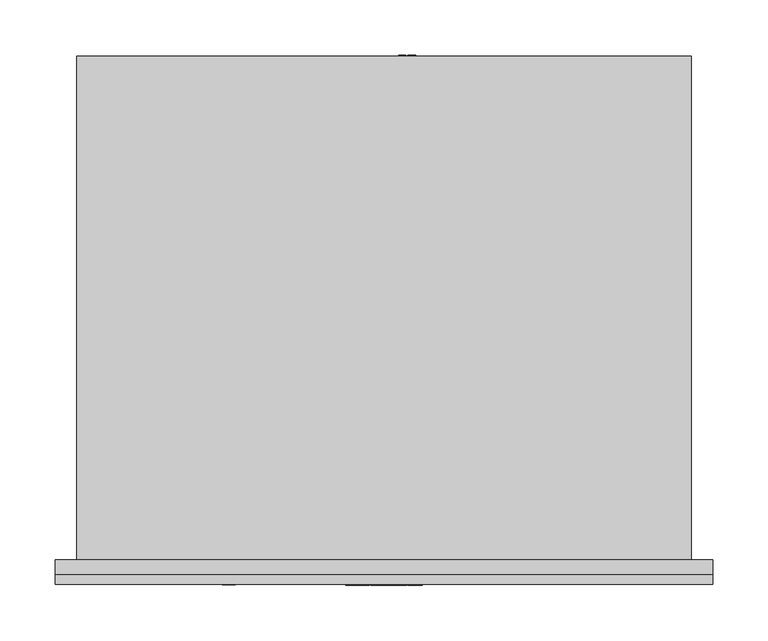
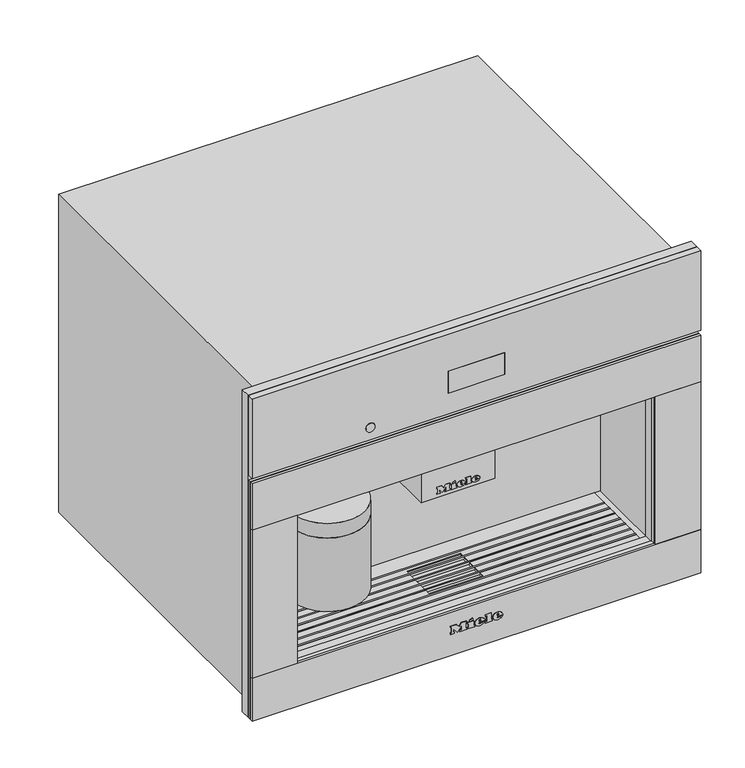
"""IFC4 building model written with IfcOpenShell, lengths in millimetres: proxy geometry, 11754280_USA_CVA7440_GRGR : 29744030_USA_11754280_CVA7440_GRGR."""

from ifc_helpers import new_model, si_unit, point, frame, frame_2d, origin, place, context, project, spatial, polyline, circle_curve, ellipse_curve, trimmed, segment, composite_curve, outline, extrude, faceted_brep, source, transform, mapped, element, save
from ifc_brep_helpers import plane_surface, cylinder_surface, revolved_surface, extruded_surface, advanced_brep


def specialty_equipment_fc41abb0(model_context):
    return source(origin(), model_context, "Body", "SolidModel", [
        extrude(outline(composite_curve([segment(trimmed(circle_curve(frame_2d((-14.0, 36.5)), 5.0), [point((-9.0, 36.5))], [point((-19.0, 36.5))], False, "CARTESIAN"), True, "CONTINUOUS"), segment(trimmed(circle_curve(frame_2d((-14.0, 36.5)), 5.0), [point((-19.0, 36.5))], [point((-9.0, 36.5))], False, "CARTESIAN"), True, "CONTINUOUS")], self_intersect=False)), frame((0.0, 0.0, 193.0), z_axis=(0.0, 0.0, 1.0), x_axis=(1.0, 0.0, 0.0)), (0.0, 0.0, 1.0), 5.0),
        extrude(outline(composite_curve([segment(trimmed(circle_curve(frame_2d((14.0, 36.5)), 5.0), [point((19.0, 36.5))], [point((9.0, 36.5))], False, "CARTESIAN"), True, "CONTINUOUS"), segment(trimmed(circle_curve(frame_2d((14.0, 36.5)), 5.0), [point((9.0, 36.5))], [point((19.0, 36.5))], False, "CARTESIAN"), True, "CONTINUOUS")], self_intersect=False)), frame((0.0, 0.0, 193.0), z_axis=(0.0, 0.0, 1.0), x_axis=(1.0, 0.0, 0.0)), (0.0, 0.0, 1.0), 5.0),
        extrude(outline(composite_curve([segment(trimmed(circle_curve(frame_2d((-156.5, 49.5)), 50.0), [point((-106.5, 49.5))], [point((-206.5, 49.5))], False, "CARTESIAN"), True, "CONTINUOUS"), segment(trimmed(circle_curve(frame_2d((-156.5, 49.5)), 50.0), [point((-206.5, 49.5))], [point((-106.5, 49.5))], False, "CARTESIAN"), True, "CONTINUOUS")], self_intersect=False)), frame((0.0, 0.0, 100.0), z_axis=(0.0, 0.0, 1.0), x_axis=(1.0, 0.0, 0.0)), (0.0, 0.0, 1.0), 103.0),
        extrude(outline(polyline([(-49.0, 95.0), (49.0, 95.0), (49.0, 20.0), (-49.0, 20.0), (-49.0, 95.0)])), frame((0.0, 0.0, 198.0), z_axis=(0.0, 0.0, 1.0), x_axis=(1.0, 0.0, 0.0)), (0.0, 0.0, 1.0), 75.0),
        extrude(outline(polyline([(455.5, 297.5), (455.5, -297.5), (4.0, -297.5), (4.0, 297.5), (455.5, 297.5)]), holes=[polyline([(273.0, 237.5), (63.0, 237.5), (63.0, -237.5), (273.0, -237.5), (273.0, 237.5)])]), frame((0.0, -13.0, 0.0), z_axis=(0.0, 1.0, 0.0), x_axis=(0.0, 0.0, 1.0)), (0.0, 0.0, 1.0), 13.0),
        extrude(outline(polyline([(97.0, 28.8772152), (107.045631, 28.8772152), (107.045631, 21.6569179), (105.7899271, 21.6569179), (105.7899271, 27.6215114), (102.8076304, 27.6215114), (102.8076304, 21.9708439), (101.5519266, 21.9708439), (101.5519266, 27.6215114), (98.2557039, 27.6215114), (98.2557039, 21.499955), (97.0, 21.499955), (97.0, 28.8772152)])), frame((0.0, 456.0, 0.0), z_axis=(0.0, 1.0, 0.0), x_axis=(0.0, 0.0, 1.0)), (0.0, 0.0, 1.0), 1.0),
        extrude(outline(polyline([(97.0, 19.6163991), (107.045631, 19.6163991), (107.045631, 18.3606953), (98.2557039, 18.3606953), (98.2557039, 13.3378798), (97.0, 13.3378798), (97.0, 19.6163991)])), frame((0.0, 456.0, 0.0), z_axis=(0.0, 1.0, 0.0), x_axis=(0.0, 0.0, 1.0)), (0.0, 0.0, 1.0), 1.0),
        advanced_brep(
        [(55.0, 425.5, 102.0), (55.0, 410.5, 102.0), (28.5, 425.5, 102.0), (13.5, 410.5, 102.0), (28.5, 456.0, 102.0), (13.5, 456.0, 102.0)],
        [
            (0, 1, circle_curve(frame((55.0, 418.0, 102.0), z_axis=(1.0, 0.0, 0.0), x_axis=(0.0, -1.0, 0.0)), 7.5)),
            (1, 0, circle_curve(frame((55.0, 418.0, 102.0), z_axis=(1.0, 0.0, 0.0), x_axis=(0.0, -1.0, 0.0)), 7.5)),
            (0, 2),
            (2, 3, ellipse_curve(frame((21.0, 418.0, 102.0), z_axis=(0.7071067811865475, -0.7071067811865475, 0.0), x_axis=(0.7071067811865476, 0.7071067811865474, 0.0)), 10.6066017, 7.5)),
            (3, 1),
            (3, 2, ellipse_curve(frame((21.0, 418.0, 102.0), z_axis=(0.7071067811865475, -0.7071067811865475, 0.0), x_axis=(0.7071067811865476, 0.7071067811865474, 0.0)), 10.6066017, 7.5)),
            (4, 5, circle_curve(frame((21.0, 456.0, 102.0), z_axis=(0.0, 1.0, 0.0), x_axis=(-1.0, 0.0, 0.0)), 7.5)),
            (5, 4, circle_curve(frame((21.0, 456.0, 102.0), z_axis=(0.0, 1.0, 0.0), x_axis=(-1.0, 0.0, 0.0)), 7.5)),
            (2, 4),
            (5, 3),
        ],
        [
            plane_surface(frame((55.0, 418.0, 102.0), z_axis=(1.0, 0.0, 0.0), x_axis=(0.0, 0.0, 1.0))),
            cylinder_surface(frame((55.0, 418.0, 102.0), z_axis=(1.0, 0.0, 0.0), x_axis=(0.0, -1.0, 0.0)), 7.5),
            plane_surface(frame((21.0, 456.0, 102.0), z_axis=(0.0, 1.0, 0.0), x_axis=(0.0, 0.0, 1.0))),
            cylinder_surface(frame((21.0, 418.0, 102.0), z_axis=(0.0, -1.0, 0.0), x_axis=(-1.0, 0.0, 0.0)), 7.5),
        ],
        [
            (0, [[1, 2]]),
            (1, [[-1, 3, 4, 5]]),
            (1, [[-2, -5, 6, -3]]),
            (2, [[7, 8]]),
            (3, [[-4, 9, -8, 10]]),
            (3, [[-6, -10, -7, -9]]),
        ],
    ),
        advanced_brep(
        [(-110.0, 49.5, 252.0), (-203.0, 49.5, 252.0), (-206.5, 49.5, 223.5), (-106.5, 49.5, 223.5), (-110.0, 49.5, 273.0), (-203.0, 49.5, 273.0), (-156.5, 49.5, 273.0), (-106.5, 49.5, 203.0), (-206.5, 49.5, 203.0), (-156.5, 49.5, 203.0)],
        [
            (0, 1, circle_curve(frame((-156.5, 49.5, 252.0), z_axis=(0.0, 0.0, -1.0), x_axis=(-1.0, 0.0, 0.0)), 46.5)),
            (1, 2, circle_curve(frame((-206.7961166, 49.5, 238.0012775), z_axis=(0.0, 1.0, 0.0), x_axis=(-1.0, 0.0, 0.0)), 14.5043005)),
            (2, 3, circle_curve(frame((-156.5, 49.5, 223.5), z_axis=(0.0, 0.0, 1.0), x_axis=(-1.0, 0.0, 0.0)), 50.0)),
            (3, 0, circle_curve(frame((-106.2038834, 49.5, 238.0012775), z_axis=(0.0, 1.0, 0.0), x_axis=(1.0, 0.0, 0.0)), 14.5043005)),
            (4, 5, circle_curve(frame((-156.5, 49.5, 273.0), z_axis=(0.0, 0.0, -1.0), x_axis=(-1.0, 0.0, 0.0)), 46.5)),
            (5, 1),
            (0, 4),
            (6, 4),
            (4, 5, circle_curve(frame((-156.5, 49.5, 273.0), z_axis=(0.0, 0.0, 1.0), x_axis=(-1.0, 0.0, 0.0)), 46.5)),
            (5, 6),
            (7, 8, circle_curve(frame((-156.5, 49.5, 203.0), z_axis=(0.0, 0.0, -1.0), x_axis=(-1.0, 0.0, 0.0)), 50.0)),
            (8, 9),
            (9, 7),
            (8, 7, circle_curve(frame((-156.5, 49.5, 203.0), z_axis=(0.0, 0.0, -1.0), x_axis=(-1.0, 0.0, 0.0)), 50.0)),
            (2, 8),
            (7, 3),
            (2, 3, circle_curve(frame((-156.5, 49.5, 223.5), z_axis=(0.0, 0.0, -1.0), x_axis=(-1.0, 0.0, 0.0)), 50.0)),
            (1, 0, circle_curve(frame((-156.5, 49.5, 252.0), z_axis=(0.0, 0.0, -1.0), x_axis=(-1.0, 0.0, 0.0)), 46.5)),
        ],
        [
            revolved_surface(trimmed(ellipse_curve(frame((-206.7961166, 49.5, 238.0012775), z_axis=(0.0, -1.0, 0.0), x_axis=(-1.0, 0.0, 0.0)), 14.5043005, 14.5043005), [point((-206.5, 49.5, 223.5))], [point((-203.0, 49.5, 252.0))], True, "CARTESIAN"), (-156.5, 49.5, 388.7361736), (0.0, 0.0, 1.0)),
            cylinder_surface(frame((-156.5, 49.5, 388.7361736), z_axis=(0.0, 0.0, 1.0), x_axis=(-1.0, 0.0, 0.0)), 46.5),
            plane_surface(frame((-156.5, 49.5, 273.0), z_axis=(0.0, 0.0, 1.0), x_axis=(-1.0, 0.0, 0.0))),
            plane_surface(frame((-156.5, 49.5, 203.0), z_axis=(0.0, 0.0, -1.0), x_axis=(-1.0, 0.0, 0.0))),
            cylinder_surface(frame((-156.5, 49.5, 388.7361736), z_axis=(0.0, 0.0, 1.0), x_axis=(-1.0, 0.0, 0.0)), 50.0),
        ],
        [
            (0, [[1, 2, 3, 4]]),
            (1, [[5, 6, -1, 7]]),
            (2, [[8, 9, 10]]),
            (3, [[11, 12, 13]]),
            (3, [[14, -13, -12]]),
            (4, [[-3, 15, -11, 16]]),
            (4, [[17, -16, -14, -15]]),
            (0, [[18, -4, -17, -2]]),
            (1, [[-9, -7, -18, -6]]),
            (2, [[-10, -5, -8]]),
        ],
    ),
        faceted_brep([(229.5, 82.0925571, 60.0), (229.5, 80.0925571, 60.0), (-229.5, 80.0925571, 60.0), (-229.5, 82.0925571, 60.0), (229.5, 70.0550731, 60.0), (229.5, 68.0550731, 60.0), (-229.5, 68.0550731, 60.0), (-229.5, 70.0550731, 60.0), (229.5, 58.0175891, 60.0), (229.5, 56.0175891, 60.0), (-229.5, 56.0175891, 60.0), (-229.5, 58.0175891, 60.0), (229.5, 45.9801052, 60.0), (229.5, 43.9801052, 60.0), (-229.5, 43.9801052, 60.0), (-229.5, 45.9801052, 60.0), (229.5, 33.9426212, 60.0), (229.5, 31.9426212, 60.0), (-229.5, 31.9426212, 60.0), (-229.5, 33.9426212, 60.0), (229.5, 21.9776522, 60.0), (229.5, 19.9776522, 60.0), (-229.5, 19.9776522, 60.0), (-229.5, 21.9776522, 60.0), (229.5, 10.0, 60.0), (229.5, 8.0, 60.0), (-229.5, 8.0, 60.0), (-229.5, 10.0, 60.0), (-229.5, 45.9801052, 62.0), (-36.0, 45.9801052, 62.0), (-36.0, 45.9801052, 63.0), (-229.5, 45.9801052, 63.0), (-229.5, 45.9801052, 63.5), (229.5, 45.9801052, 63.5), (229.5, 45.9801052, 63.0), (36.0, 45.9801052, 63.0), (36.0, 45.9801052, 62.0), (229.5, 45.9801052, 62.0), (229.5, 19.9776522, 62.0), (229.5, 10.0, 62.0), (-229.5, 10.0, 62.0), (-229.5, 19.9776522, 62.0), (229.5, 43.9801052, 62.0), (229.5, 33.9426212, 62.0), (36.0, 33.9426212, 62.0), (36.0, 43.9801052, 62.0), (229.5, 56.0175891, 62.0), (36.0, 56.0175891, 62.0), (229.5, 68.0550731, 62.0), (229.5, 58.0175891, 62.0), (36.0, 58.0175891, 62.0), (36.0, 68.0550731, 62.0), (-229.5, 33.9426212, 62.0), (-229.5, 43.9801052, 62.0), (-36.0, 43.9801052, 62.0), (-36.0, 33.9426212, 62.0), (-229.5, 56.0175891, 62.0), (-36.0, 56.0175891, 62.0), (-229.5, 58.0175891, 62.0), (-229.5, 68.0550731, 62.0), (-36.0, 68.0550731, 62.0), (-36.0, 58.0175891, 62.0), (-229.5, 104.5, 62.0), (229.5, 104.5, 62.0), (229.5, 82.0925571, 62.0), (-229.5, 82.0925571, 62.0), (36.0, 76.0, 62.0), (-36.0, 76.0, 62.0), (-36.0, 70.0550731, 62.0), (-229.5, 70.0550731, 62.0), (-229.5, 80.0925571, 62.0), (229.5, 80.0925571, 62.0), (229.5, 70.0550731, 62.0), (36.0, 70.0550731, 62.0), (229.5, 0.0, 62.0), (-229.5, 0.0, 62.0), (-229.5, 8.0, 62.0), (229.5, 8.0, 62.0), (-36.0, 25.0, 62.0), (36.0, 25.0, 62.0), (36.0, 31.9426212, 62.0), (229.5, 31.9426212, 62.0), (229.5, 21.9776522, 62.0), (-229.5, 21.9776522, 62.0), (-229.5, 31.9426212, 62.0), (-36.0, 31.9426212, 62.0), (229.5, 104.5, 63.0), (-229.5, 104.5, 63.0), (-229.5, 82.0925571, 63.0), (229.5, 82.0925571, 63.0), (-229.5, 0.0, 63.0), (229.5, 0.0, 63.0), (229.5, 8.0, 63.0), (-229.5, 8.0, 63.0), (-36.0, 76.0, 63.0), (36.0, 76.0, 63.0), (36.0, 70.0550731, 63.0), (229.5, 70.0550731, 63.0), (229.5, 80.0925571, 63.0), (-229.5, 80.0925571, 63.0), (-229.5, 70.0550731, 63.0), (-36.0, 70.0550731, 63.0), (36.0, 25.0, 63.0), (-36.0, 25.0, 63.0), (-36.0, 31.9426212, 63.0), (-229.5, 31.9426212, 63.0), (-229.5, 21.9776522, 63.0), (229.5, 21.9776522, 63.0), (229.5, 31.9426212, 63.0), (36.0, 31.9426212, 63.0), (-229.5, 19.9776522, 63.0), (-229.5, 10.0, 63.0), (229.5, 10.0, 63.0), (229.5, 19.9776522, 63.0), (-229.5, 43.9801052, 63.0), (-229.5, 33.9426212, 63.0), (-36.0, 33.9426212, 63.0), (-36.0, 43.9801052, 63.0), (-229.5, 56.0175891, 63.0), (-36.0, 56.0175891, 63.0), (-229.5, 68.0550731, 63.0), (-229.5, 58.0175891, 63.0), (-36.0, 58.0175891, 63.0), (-36.0, 68.0550731, 63.0), (229.5, 33.9426212, 63.0), (229.5, 43.9801052, 63.0), (36.0, 43.9801052, 63.0), (36.0, 33.9426212, 63.0), (229.5, 56.0175891, 63.0), (36.0, 56.0175891, 63.0), (229.5, 58.0175891, 63.0), (229.5, 68.0550731, 63.0), (36.0, 68.0550731, 63.0), (36.0, 58.0175891, 63.0), (-229.5, 8.0, 63.5), (-229.5, 10.0, 63.5), (-229.5, 19.9776522, 63.5), (-229.5, 21.9776522, 63.5), (-229.5, 31.9426212, 63.5), (-229.5, 33.9426212, 63.5), (-229.5, 43.9801052, 63.5), (-229.5, 56.0175891, 63.5), (-229.5, 58.0175891, 63.5), (-229.5, 68.0550731, 63.5), (-229.5, 70.0550731, 63.5), (-229.5, 80.0925571, 63.5), (-229.5, 82.0925571, 63.5), (229.5, 82.0925571, 63.5), (229.5, 80.0925571, 63.5), (229.5, 70.0550731, 63.5), (229.5, 68.0550731, 63.5), (229.5, 58.0175891, 63.5), (229.5, 56.0175891, 63.5), (229.5, 43.9801052, 63.5), (229.5, 33.9426212, 63.5), (229.5, 31.9426212, 63.5), (229.5, 21.9776522, 63.5), (229.5, 19.9776522, 63.5), (229.5, 10.0, 63.5), (229.5, 8.0, 63.5)], [[[0, 1, 2, 3]], [[4, 5, 6, 7]], [[8, 9, 10, 11]], [[12, 13, 14, 15]], [[16, 17, 18, 19]], [[20, 21, 22, 23]], [[24, 25, 26, 27]], [[12, 15, 28, 29, 30, 31, 32, 33, 34, 35, 36, 37]], [[38, 39, 40, 41]], [[42, 43, 44, 45]], [[46, 37, 36, 47]], [[48, 49, 50, 51]], [[52, 53, 54, 55]], [[28, 56, 57, 29]], [[58, 59, 60, 61]], [[62, 63, 64, 65]], [[66, 67, 68, 69, 70, 71, 72, 73]], [[74, 75, 76, 77]], [[78, 79, 80, 81, 82, 83, 84, 85]], [[86, 87, 88, 89]], [[90, 91, 92, 93]], [[94, 95, 96, 97, 98, 99, 100, 101]], [[102, 103, 104, 105, 106, 107, 108, 109]], [[110, 111, 112, 113]], [[114, 115, 116, 117]], [[118, 31, 30, 119]], [[120, 121, 122, 123]], [[124, 125, 126, 127]], [[34, 128, 129, 35]], [[130, 131, 132, 133]], [[63, 62, 87, 86]], [[87, 62, 65, 3, 2, 70, 69, 7, 6, 59, 58, 11, 10, 56, 28, 15, 14, 53, 52, 19, 18, 84, 83, 23, 22, 41, 40, 27, 26, 76, 75, 90, 93, 134, 135, 111, 110, 136, 137, 106, 105, 138, 139, 115, 114, 140, 32, 31, 118, 141, 142, 121, 120, 143, 144, 100, 99, 145, 146, 88]], [[75, 74, 91, 90]], [[63, 86, 89, 147, 148, 98, 97, 149, 150, 131, 130, 151, 152, 128, 34, 33, 153, 125, 124, 154, 155, 108, 107, 156, 157, 113, 112, 158, 159, 92, 91, 74, 77, 25, 24, 39, 38, 21, 20, 82, 81, 17, 16, 43, 42, 13, 12, 37, 46, 9, 8, 49, 48, 5, 4, 72, 71, 1, 0, 64]], [[66, 95, 94, 67]], [[55, 54, 117, 116]], [[29, 57, 119, 30]], [[61, 60, 123, 122]], [[67, 94, 101, 68]], [[103, 78, 85, 104]], [[78, 103, 102, 79]], [[45, 44, 127, 126]], [[47, 36, 35, 129]], [[51, 50, 133, 132]], [[95, 66, 73, 96]], [[79, 102, 109, 80]], [[158, 135, 134, 159]], [[156, 137, 136, 157]], [[154, 139, 138, 155]], [[33, 32, 140, 153]], [[151, 142, 141, 152]], [[149, 144, 143, 150]], [[147, 146, 145, 148]], [[24, 27, 40, 39]], [[135, 158, 112, 111]], [[26, 25, 77, 76]], [[159, 134, 93, 92]], [[20, 23, 83, 82]], [[137, 156, 107, 106]], [[22, 21, 38, 41]], [[157, 136, 110, 113]], [[16, 19, 52, 55, 116, 115, 139, 154, 124, 127, 44, 43]], [[18, 17, 81, 80, 109, 108, 155, 138, 105, 104, 85, 84]], [[14, 13, 42, 45, 126, 125, 153, 140, 114, 117, 54, 53]], [[8, 11, 58, 61, 122, 121, 142, 151, 130, 133, 50, 49]], [[10, 9, 46, 47, 129, 128, 152, 141, 118, 119, 57, 56]], [[4, 7, 69, 68, 101, 100, 144, 149, 97, 96, 73, 72]], [[6, 5, 48, 51, 132, 131, 150, 143, 120, 123, 60, 59]], [[0, 3, 65, 64]], [[146, 147, 89, 88]], [[2, 1, 71, 70]], [[148, 145, 99, 98]]]),
        faceted_brep([(-278.0, 456.0, 0.0), (-278.0, 0.0, 0.0), (-278.0, 0.0, 446.0), (-278.0, 456.0, 446.0), (278.0, 456.0, 0.0), (278.0, 456.0, 446.0), (278.0, 0.0, 446.0), (278.0, 0.0, 0.0), (55.0, 456.0, 133.0), (-22.0, 456.0, 133.0), (-22.0, 456.0, 89.0), (35.0, 456.0, 66.0), (55.0, 456.0, 66.0), (-36.0, 76.0, 58.0), (36.0, 76.0, 58.0), (36.0, 76.0, 62.0), (-36.0, 76.0, 62.0), (36.0, 25.0, 58.0), (-36.0, 25.0, 58.0), (-36.0, 25.0, 62.0), (36.0, 25.0, 62.0), (237.5, 0.0, 273.0), (237.5, 0.0, 63.0), (229.5, 0.0, 63.0), (229.5, 0.0, 62.0), (-229.5, 0.0, 62.0), (-229.5, 0.0, 63.0), (-237.5, 0.0, 63.0), (-237.5, 0.0, 273.0), (237.5, 104.5, 273.0), (-237.5, 104.5, 273.0), (-237.5, 104.5, 63.0), (-229.5, 104.5, 63.0), (-229.5, 104.5, 62.0), (229.5, 104.5, 62.0), (229.5, 104.5, 63.0), (237.5, 104.5, 63.0), (-22.0, 400.0, 133.0), (55.0, 400.0, 133.0), (55.0, 400.0, 66.0), (35.0, 400.0, 66.0), (-22.0, 400.0, 89.0)], [[[0, 1, 2, 3]], [[4, 5, 6, 7]], [[0, 3, 5, 4], [8, 9, 10, 11, 12]], [[13, 14, 15, 16]], [[17, 18, 19, 20]], [[3, 2, 6, 5]], [[2, 1, 7, 6], [21, 22, 23, 24, 25, 26, 27, 28]], [[1, 0, 4, 7]], [[29, 30, 31, 32, 33, 34, 35, 36]], [[29, 36, 22, 21]], [[22, 36, 35, 23]], [[31, 27, 26, 32]], [[31, 30, 28, 27]], [[30, 29, 21, 28]], [[34, 33, 25, 24], [16, 15, 20, 19]], [[25, 33, 32, 26]], [[34, 24, 23, 35]], [[14, 13, 18, 17]], [[18, 13, 16, 19]], [[14, 17, 20, 15]], [[37, 38, 39, 40, 41]], [[38, 37, 9, 8]], [[39, 38, 8, 12]], [[40, 39, 12, 11]], [[41, 40, 11, 10]], [[37, 41, 10, 9]]]),
        advanced_brep(
        [(27.088, -23.0, 36.7018), (27.088, -23.0, 37.8532), (34.7146, -23.0, 37.8532), (21.445, -23.0, 37.8532), (24.58, -23.0, 34.0), (34.5208, -23.0, 36.7018), (31.078, -23.0, 36.7018), (28.3648, -23.0, 35.425), (27.088, -23.0, 39.3124), (27.088, -23.0, 40.555), (29.0374, -23.0, 40.555), (29.0374, -23.0, 39.3124), (27.088, -22.0, 36.7018), (28.3648, -22.0, 35.425), (31.078, -22.0, 36.7018), (34.5208, -22.0, 36.7018), (24.58, -22.0, 34.0), (21.445, -22.0, 37.8532), (34.7146, -22.0, 37.8532), (27.088, -22.0, 37.8532), (27.088, -22.0, 39.3124), (29.0374, -22.0, 39.3124), (29.0374, -22.0, 40.555), (27.088, -22.0, 40.555)],
        [
            (0, 1),
            (1, 2),
            (2, 3, ellipse_curve(frame((28.0798, -23.0, 37.8532), z_axis=(0.0, -1.0, 0.0), x_axis=(-1.0, 0.0, 0.0)), 6.6348, 5.4834)),
            (3, 4, circle_curve(frame((25.8568622, -23.0, 38.2408), z_axis=(0.0, -1.0, 0.0), x_axis=(0.0, 0.0, -1.0)), 4.4288556)),
            (4, 5, circle_curve(frame((27.9469808, -23.0, 41.2504), z_axis=(0.0, -1.0, 0.0), x_axis=(0.0, 0.0, -1.0)), 7.9940516)),
            (5, 6),
            (6, 7, circle_curve(frame((28.9220588, -23.0, 37.762), z_axis=(0.0, 1.0, 0.0), x_axis=(0.0, 0.0, -1.0)), 2.4025208)),
            (7, 0, circle_curve(frame((28.3648, -23.0, 36.7018), z_axis=(0.0, 1.0, 0.0), x_axis=(0.0, 0.0, -1.0)), 1.2768)),
            (8, 9),
            (9, 10, circle_curve(frame((28.0627, -23.0, 40.555), z_axis=(0.0, 1.0, 0.0), x_axis=(0.0, 0.0, -1.0)), 0.9747)),
            (10, 11),
            (11, 8),
            (12, 13, circle_curve(frame((28.3648, -22.0, 36.7018), z_axis=(0.0, -1.0, 0.0), x_axis=(0.0, 0.0, -1.0)), 1.2768)),
            (13, 14, circle_curve(frame((28.9220588, -22.0, 37.762), z_axis=(0.0, -1.0, 0.0), x_axis=(0.0, 0.0, -1.0)), 2.4025208)),
            (14, 15),
            (15, 16, circle_curve(frame((27.9469808, -22.0, 41.2504), z_axis=(0.0, 1.0, 0.0), x_axis=(0.0, 0.0, -1.0)), 7.9940516)),
            (16, 17, circle_curve(frame((25.8568622, -22.0, 38.2408), z_axis=(0.0, 1.0, 0.0), x_axis=(0.0, 0.0, -1.0)), 4.4288556)),
            (17, 18, ellipse_curve(frame((28.0798, -22.0, 37.8532), z_axis=(0.0, 1.0, 0.0), x_axis=(-1.0, 0.0, 0.0)), 6.6348, 5.4834)),
            (18, 19),
            (19, 12),
            (20, 21),
            (21, 22),
            (22, 23, circle_curve(frame((28.0627, -22.0, 40.555), z_axis=(0.0, -1.0, 0.0), x_axis=(0.0, 0.0, -1.0)), 0.9747)),
            (23, 20),
            (0, 12),
            (19, 1),
            (18, 2),
            (5, 15),
            (14, 6),
            (17, 3),
            (13, 7),
            (16, 4),
            (8, 20),
            (23, 9),
            (22, 10),
            (21, 11),
        ],
        [
            plane_surface(frame((27.088, -23.0, 37.8532), z_axis=(0.0, -1.0, 0.0), x_axis=(0.0, 0.0, 1.0))),
            plane_surface(frame((27.088, -22.0, 37.8532), z_axis=(0.0, 1.0, 0.0), x_axis=(0.0, 0.0, -1.0))),
            plane_surface(frame((27.088, -23.0, 36.7018), z_axis=(1.0, 0.0, 0.0), x_axis=(0.0, 1.0, 0.0))),
            plane_surface(frame((27.088, -23.0, 37.8532), z_axis=(0.0, 0.0, -1.0), x_axis=(0.0, 1.0, 0.0))),
            plane_surface(frame((34.5208, -23.0, 36.7018), z_axis=(0.0, 0.0, 1.0), x_axis=(0.0, 1.0, 0.0))),
            extruded_surface(trimmed(ellipse_curve(frame((28.0798, -21.0, 37.8532), z_axis=(0.0, -1.0, 0.0), x_axis=(-1.0, 0.0, 0.0)), 6.6348, 5.4834), [point((34.7146, -21.0, 37.8532))], [point((21.445, -21.0, 37.8532))], True, "CARTESIAN"), (0.0, -1.0, 0.0), 1.0),
            revolved_surface(polyline([(28.9220588, -22.0, 35.3594792), (28.9220588, -23.0, 35.3594792)]), (28.9220588, -22.0, 37.762), (0.0, 1.0, 0.0)),
            revolved_surface(polyline([(28.3648, -22.0, 35.425), (28.3648, -23.0, 35.425)]), (28.3648, -22.0, 36.7018), (0.0, 1.0, 0.0)),
            cylinder_surface(frame((25.8568622, -22.0, 38.2408), z_axis=(0.0, -1.0, 0.0), x_axis=(0.0, 0.0, -1.0)), 4.4288556),
            cylinder_surface(frame((27.9469808, -22.0, 41.2504), z_axis=(0.0, -1.0, 0.0), x_axis=(0.0, 0.0, -1.0)), 7.9940516),
            plane_surface(frame((27.088, -23.0, 39.3124), z_axis=(1.0, 0.0, 0.0), x_axis=(0.0, 1.0, 0.0))),
            revolved_surface(polyline([(28.0627, -22.0, 39.5803), (28.0627, -23.0, 39.5803)]), (28.0627, -22.0, 40.555), (0.0, 1.0, 0.0)),
            plane_surface(frame((29.0374, -23.0, 40.555), z_axis=(-1.0, 0.0, 0.0), x_axis=(0.0, 1.0, 0.0))),
            plane_surface(frame((29.0374, -23.0, 39.3124), z_axis=(0.0, 0.0, 1.0), x_axis=(0.0, 1.0, 0.0))),
        ],
        [
            (0, [[1, 2, 3, 4, 5, 6, 7, 8], [9, 10, 11, 12]]),
            (1, [[13, 14, 15, 16, 17, 18, 19, 20], [21, 22, 23, 24]]),
            (2, [[-1, 25, -20, 26]]),
            (3, [[-2, -26, -19, 27]]),
            (4, [[-6, 28, -15, 29]]),
            (5, [[-3, -27, -18, 30]]),
            (6, [[-7, -29, -14, 31]]),
            (7, [[-8, -31, -13, -25]]),
            (8, [[-4, -30, -17, 32]]),
            (9, [[-5, -32, -16, -28]]),
            (10, [[-9, 33, -24, 34]]),
            (11, [[-10, -34, -23, 35]]),
            (12, [[-11, -35, -22, 36]]),
            (13, [[-12, -36, -21, -33]]),
        ],
    ),
        advanced_brep(
        [(3.2962, -23.0, 36.7018), (3.2962, -23.0, 37.8532), (10.9228, -23.0, 37.8532), (-2.3468, -23.0, 37.8532), (0.7882, -23.0, 34.0), (10.729, -23.0, 36.7018), (7.2862, -23.0, 36.7018), (4.573, -23.0, 35.425), (3.2962, -23.0, 39.3124), (3.2962, -23.0, 40.555), (5.2456, -23.0, 40.555), (5.2456, -23.0, 39.3124), (3.2962, -22.0, 36.7018), (4.573, -22.0, 35.425), (7.2862, -22.0, 36.7018), (10.729, -22.0, 36.7018), (0.7882, -22.0, 34.0), (-2.3468, -22.0, 37.8532), (10.9228, -22.0, 37.8532), (3.2962, -22.0, 37.8532), (3.2962, -22.0, 39.3124), (5.2456, -22.0, 39.3124), (5.2456, -22.0, 40.555), (3.2962, -22.0, 40.555)],
        [
            (0, 1),
            (1, 2),
            (2, 3, ellipse_curve(frame((4.288, -23.0, 37.8532), z_axis=(0.0, -1.0, 0.0), x_axis=(-1.0, 0.0, 0.0)), 6.6348, 5.4834)),
            (3, 4, circle_curve(frame((2.0650622, -23.0, 38.2408), z_axis=(0.0, -1.0, 0.0), x_axis=(0.0, 0.0, -1.0)), 4.4288556)),
            (4, 5, circle_curve(frame((4.1551808, -23.0, 41.2504), z_axis=(0.0, -1.0, 0.0), x_axis=(0.0, 0.0, -1.0)), 7.9940516)),
            (5, 6),
            (6, 7, circle_curve(frame((5.1302588, -23.0, 37.762), z_axis=(0.0, 1.0, 0.0), x_axis=(0.0, 0.0, -1.0)), 2.4025208)),
            (7, 0, circle_curve(frame((4.573, -23.0, 36.7018), z_axis=(0.0, 1.0, 0.0), x_axis=(0.0, 0.0, -1.0)), 1.2768)),
            (8, 9),
            (9, 10, circle_curve(frame((4.2709, -23.0, 40.555), z_axis=(0.0, 1.0, 0.0), x_axis=(0.0, 0.0, -1.0)), 0.9747)),
            (10, 11),
            (11, 8),
            (12, 13, circle_curve(frame((4.573, -22.0, 36.7018), z_axis=(0.0, -1.0, 0.0), x_axis=(0.0, 0.0, -1.0)), 1.2768)),
            (13, 14, circle_curve(frame((5.1302588, -22.0, 37.762), z_axis=(0.0, -1.0, 0.0), x_axis=(0.0, 0.0, -1.0)), 2.4025208)),
            (14, 15),
            (15, 16, circle_curve(frame((4.1551808, -22.0, 41.2504), z_axis=(0.0, 1.0, 0.0), x_axis=(0.0, 0.0, -1.0)), 7.9940516)),
            (16, 17, circle_curve(frame((2.0650622, -22.0, 38.2408), z_axis=(0.0, 1.0, 0.0), x_axis=(0.0, 0.0, -1.0)), 4.4288556)),
            (17, 18, ellipse_curve(frame((4.288, -22.0, 37.8532), z_axis=(0.0, 1.0, 0.0), x_axis=(-1.0, 0.0, 0.0)), 6.6348, 5.4834)),
            (18, 19),
            (19, 12),
            (20, 21),
            (21, 22),
            (22, 23, circle_curve(frame((4.2709, -22.0, 40.555), z_axis=(0.0, -1.0, 0.0), x_axis=(0.0, 0.0, -1.0)), 0.9747)),
            (23, 20),
            (0, 12),
            (19, 1),
            (18, 2),
            (5, 15),
            (14, 6),
            (17, 3),
            (13, 7),
            (16, 4),
            (8, 20),
            (23, 9),
            (22, 10),
            (21, 11),
        ],
        [
            plane_surface(frame((3.2962, -23.0, 37.8532), z_axis=(0.0, -1.0, 0.0), x_axis=(0.0, 0.0, 1.0))),
            plane_surface(frame((3.2962, -22.0, 37.8532), z_axis=(0.0, 1.0, 0.0), x_axis=(0.0, 0.0, -1.0))),
            plane_surface(frame((3.2962, -23.0, 36.7018), z_axis=(1.0, 0.0, 0.0), x_axis=(0.0, 1.0, 0.0))),
            plane_surface(frame((3.2962, -23.0, 37.8532), z_axis=(0.0, 0.0, -1.0), x_axis=(0.0, 1.0, 0.0))),
            plane_surface(frame((10.729, -23.0, 36.7018), z_axis=(0.0, 0.0, 1.0), x_axis=(0.0, 1.0, 0.0))),
            extruded_surface(trimmed(ellipse_curve(frame((4.288, -21.0, 37.8532), z_axis=(0.0, -1.0, 0.0), x_axis=(-1.0, 0.0, 0.0)), 6.6348, 5.4834), [point((10.9228, -21.0, 37.8532))], [point((-2.3468, -21.0, 37.8532))], True, "CARTESIAN"), (0.0, -1.0, 0.0), 1.0),
            revolved_surface(polyline([(5.1302588, -22.0, 35.3594792), (5.1302588, -23.0, 35.3594792)]), (5.1302588, -22.0, 37.762), (0.0, 1.0, 0.0)),
            revolved_surface(polyline([(4.573, -22.0, 35.425), (4.573, -23.0, 35.425)]), (4.573, -22.0, 36.7018), (0.0, 1.0, 0.0)),
            cylinder_surface(frame((2.0650622, -22.0, 38.2408), z_axis=(0.0, -1.0, 0.0), x_axis=(0.0, 0.0, -1.0)), 4.4288556),
            cylinder_surface(frame((4.1551808, -22.0, 41.2504), z_axis=(0.0, -1.0, 0.0), x_axis=(0.0, 0.0, -1.0)), 7.9940516),
            plane_surface(frame((3.2962, -23.0, 39.3124), z_axis=(1.0, 0.0, 0.0), x_axis=(0.0, 1.0, 0.0))),
            revolved_surface(polyline([(4.2709, -22.0, 39.5803), (4.2709, -23.0, 39.5803)]), (4.2709, -22.0, 40.555), (0.0, 1.0, 0.0)),
            plane_surface(frame((5.2456, -23.0, 40.555), z_axis=(-1.0, 0.0, 0.0), x_axis=(0.0, 1.0, 0.0))),
            plane_surface(frame((5.2456, -23.0, 39.3124), z_axis=(0.0, 0.0, 1.0), x_axis=(0.0, 1.0, 0.0))),
        ],
        [
            (0, [[1, 2, 3, 4, 5, 6, 7, 8], [9, 10, 11, 12]]),
            (1, [[13, 14, 15, 16, 17, 18, 19, 20], [21, 22, 23, 24]]),
            (2, [[-1, 25, -20, 26]]),
            (3, [[-2, -26, -19, 27]]),
            (4, [[-6, 28, -15, 29]]),
            (5, [[-3, -27, -18, 30]]),
            (6, [[-7, -29, -14, 31]]),
            (7, [[-8, -31, -13, -25]]),
            (8, [[-4, -30, -17, 32]]),
            (9, [[-5, -32, -16, -28]]),
            (10, [[-9, 33, -24, 34]]),
            (11, [[-10, -34, -23, 35]]),
            (12, [[-11, -35, -22, 36]]),
            (13, [[-12, -36, -21, -33]]),
        ],
    ),
        extrude(outline(polyline([(44.7274, -9.164), (42.8806, -8.2976), (44.6818, -4.433), (46.5286, -5.288), (44.7274, -9.164)])), frame((0.0, -23.0, 0.0), z_axis=(0.0, 1.0, 0.0), x_axis=(0.0, 0.0, 1.0)), (0.0, 0.0, 1.0), 1.0),
        extrude(outline(polyline([(42.6298, -11.9798), (40.5892, -11.9798), (40.5892, -10.6232), (35.9152, -10.6232), (35.9152, -11.9798), (34.0, -11.9798), (34.0, -2.9852), (35.9152, -2.9852), (35.9152, -4.3076), (42.6298, -4.3076), (42.6298, -11.9798)])), frame((0.0, -23.0, 0.0), z_axis=(0.0, 1.0, 0.0), x_axis=(0.0, 0.0, 1.0)), (0.0, 0.0, 1.0), 1.0),
        extrude(outline(polyline([(43.5418, 11.5612), (43.5418, 12.9292), (35.9152, 12.9292), (35.9152, 11.5612), (34.0, 11.5612), (34.0, 20.8066), (35.9152, 20.8066), (35.9152, 19.4044), (45.4, 19.4044), (45.4, 11.5612), (43.5418, 11.5612)])), frame((0.0, -23.0, 0.0), z_axis=(0.0, 1.0, 0.0), x_axis=(0.0, 0.0, 1.0)), (0.0, 0.0, 1.0), 1.0),
        extrude(outline(polyline([(43.5418, -34.7), (43.5418, -33.3206), (35.9152, -33.3206), (35.9152, -34.7), (34.0, -34.7), (34.0, -29.684), (35.9152, -29.684), (35.9152, -31.052), (40.7429247, -31.052), (34.0, -25.9562), (40.9402223, -20.8376), (35.9152, -20.8376), (35.9152, -22.2398), (34.0, -22.2398), (34.0, -13.1426), (35.9152, -13.1426), (35.9152, -14.5904), (43.5418, -14.5904), (43.5418, -13.1426), (45.4, -13.1426), (45.4, -20.0852), (41.125, -23.414), (45.4, -26.7542), (45.4, -34.7), (43.5418, -34.7)])), frame((0.0, -23.0, 0.0), z_axis=(0.0, 1.0, 0.0), x_axis=(0.0, 0.0, 1.0)), (0.0, 0.0, 1.0), 1.0),
        advanced_brep(
        [(22.348, 19.0, 205.5278), (22.348, 19.0, 206.4772), (28.6366, 19.0, 206.4772), (17.695, 19.0, 206.4772), (20.28, 19.0, 203.3), (28.4768, 19.0, 205.5278), (25.638, 19.0, 205.5278), (23.4008, 19.0, 204.475), (22.348, 19.0, 207.6804), (22.348, 19.0, 208.705), (23.9554, 19.0, 208.705), (23.9554, 19.0, 207.6804), (22.348, 20.0, 205.5278), (23.4008, 20.0, 204.475), (25.638, 20.0, 205.5278), (28.4768, 20.0, 205.5278), (20.28, 20.0, 203.3), (17.695, 20.0, 206.4772), (28.6366, 20.0, 206.4772), (22.348, 20.0, 206.4772), (22.348, 20.0, 207.6804), (23.9554, 20.0, 207.6804), (23.9554, 20.0, 208.705), (22.348, 20.0, 208.705)],
        [
            (0, 1),
            (1, 2),
            (2, 3, ellipse_curve(frame((23.1658, 19.0, 206.4772), z_axis=(0.0, -1.0, 0.0), x_axis=(-1.0, 0.0, 0.0)), 5.4708, 4.5214)),
            (3, 4, circle_curve(frame((21.3328513, 19.0, 206.7968), z_axis=(0.0, -1.0, 0.0), x_axis=(0.0, 0.0, -1.0)), 3.6518634)),
            (4, 5, circle_curve(frame((23.0562825, 19.0, 209.2784), z_axis=(0.0, -1.0, 0.0), x_axis=(0.0, 0.0, -1.0)), 6.5915864)),
            (5, 6),
            (6, 7, circle_curve(frame((23.8602941, 19.0, 206.402), z_axis=(0.0, 1.0, 0.0), x_axis=(0.0, 0.0, -1.0)), 1.981026)),
            (7, 0, circle_curve(frame((23.4008, 19.0, 205.5278), z_axis=(0.0, 1.0, 0.0), x_axis=(0.0, 0.0, -1.0)), 1.0528)),
            (8, 9),
            (9, 10, circle_curve(frame((23.1517, 19.0, 208.705), z_axis=(0.0, 1.0, 0.0), x_axis=(0.0, 0.0, -1.0)), 0.8037)),
            (10, 11),
            (11, 8),
            (12, 13, circle_curve(frame((23.4008, 20.0, 205.5278), z_axis=(0.0, -1.0, 0.0), x_axis=(0.0, 0.0, -1.0)), 1.0528)),
            (13, 14, circle_curve(frame((23.8602941, 20.0, 206.402), z_axis=(0.0, -1.0, 0.0), x_axis=(0.0, 0.0, -1.0)), 1.981026)),
            (14, 15),
            (15, 16, circle_curve(frame((23.0562825, 20.0, 209.2784), z_axis=(0.0, 1.0, 0.0), x_axis=(0.0, 0.0, -1.0)), 6.5915864)),
            (16, 17, circle_curve(frame((21.3328513, 20.0, 206.7968), z_axis=(0.0, 1.0, 0.0), x_axis=(0.0, 0.0, -1.0)), 3.6518634)),
            (17, 18, ellipse_curve(frame((23.1658, 20.0, 206.4772), z_axis=(0.0, 1.0, 0.0), x_axis=(-1.0, 0.0, 0.0)), 5.4708, 4.5214)),
            (18, 19),
            (19, 12),
            (20, 21),
            (21, 22),
            (22, 23, circle_curve(frame((23.1517, 20.0, 208.705), z_axis=(0.0, -1.0, 0.0), x_axis=(0.0, 0.0, -1.0)), 0.8037)),
            (23, 20),
            (0, 12),
            (19, 1),
            (18, 2),
            (5, 15),
            (14, 6),
            (17, 3),
            (13, 7),
            (16, 4),
            (8, 20),
            (23, 9),
            (22, 10),
            (21, 11),
        ],
        [
            plane_surface(frame((22.348, 19.0, 206.4772), z_axis=(0.0, -1.0, 0.0), x_axis=(0.0, 0.0, 1.0))),
            plane_surface(frame((22.348, 20.0, 206.4772), z_axis=(0.0, 1.0, 0.0), x_axis=(0.0, 0.0, -1.0))),
            plane_surface(frame((22.348, 19.0, 205.5278), z_axis=(1.0, 0.0, 0.0), x_axis=(0.0, 1.0, 0.0))),
            plane_surface(frame((22.348, 19.0, 206.4772), z_axis=(0.0, 0.0, -1.0), x_axis=(0.0, 1.0, 0.0))),
            plane_surface(frame((28.4768, 19.0, 205.5278), z_axis=(0.0, 0.0, 1.0), x_axis=(0.0, 1.0, 0.0))),
            extruded_surface(trimmed(ellipse_curve(frame((23.1658, 21.0, 206.4772), z_axis=(0.0, -1.0, 0.0), x_axis=(-1.0, 0.0, 0.0)), 5.4708, 4.5214), [point((28.6366, 21.0, 206.4772))], [point((17.695, 21.0, 206.4772))], True, "CARTESIAN"), (0.0, -1.0, 0.0), 1.0),
            revolved_surface(polyline([(23.8602941, 20.0, 204.420974), (23.8602941, 19.0, 204.420974)]), (23.8602941, 20.0, 206.402), (0.0, 1.0, 0.0)),
            revolved_surface(polyline([(23.4008, 20.0, 204.47500000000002), (23.4008, 19.0, 204.47500000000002)]), (23.4008, 20.0, 205.5278), (0.0, 1.0, 0.0)),
            cylinder_surface(frame((21.3328513, 20.0, 206.7968), z_axis=(0.0, -1.0, 0.0), x_axis=(0.0, 0.0, -1.0)), 3.6518634),
            cylinder_surface(frame((23.0562825, 20.0, 209.2784), z_axis=(0.0, -1.0, 0.0), x_axis=(0.0, 0.0, -1.0)), 6.5915864),
            plane_surface(frame((22.348, 19.0, 207.6804), z_axis=(1.0, 0.0, 0.0), x_axis=(0.0, 1.0, 0.0))),
            revolved_surface(polyline([(23.1517, 20.0, 207.90130000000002), (23.1517, 19.0, 207.90130000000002)]), (23.1517, 20.0, 208.705), (0.0, 1.0, 0.0)),
            plane_surface(frame((23.9554, 19.0, 208.705), z_axis=(-1.0, 0.0, 0.0), x_axis=(0.0, 1.0, 0.0))),
            plane_surface(frame((23.9554, 19.0, 207.6804), z_axis=(0.0, 0.0, 1.0), x_axis=(0.0, 1.0, 0.0))),
        ],
        [
            (0, [[1, 2, 3, 4, 5, 6, 7, 8], [9, 10, 11, 12]]),
            (1, [[13, 14, 15, 16, 17, 18, 19, 20], [21, 22, 23, 24]]),
            (2, [[-1, 25, -20, 26]]),
            (3, [[-2, -26, -19, 27]]),
            (4, [[-6, 28, -15, 29]]),
            (5, [[-3, -27, -18, 30]]),
            (6, [[-7, -29, -14, 31]]),
            (7, [[-8, -31, -13, -25]]),
            (8, [[-4, -30, -17, 32]]),
            (9, [[-5, -32, -16, -28]]),
            (10, [[-9, 33, -24, 34]]),
            (11, [[-10, -34, -23, 35]]),
            (12, [[-11, -35, -22, 36]]),
            (13, [[-12, -36, -21, -33]]),
        ],
    ),
        advanced_brep(
        [(2.7302, 19.0, 205.5278), (2.7302, 19.0, 206.4772), (9.0188, 19.0, 206.4772), (-1.9228, 19.0, 206.4772), (0.6622, 19.0, 203.3), (8.859, 19.0, 205.5278), (6.0202, 19.0, 205.5278), (3.783, 19.0, 204.475), (2.7302, 19.0, 207.6804), (2.7302, 19.0, 208.705), (4.3376, 19.0, 208.705), (4.3376, 19.0, 207.6804), (2.7302, 20.0, 205.5278), (3.783, 20.0, 204.475), (6.0202, 20.0, 205.5278), (8.859, 20.0, 205.5278), (0.6622, 20.0, 203.3), (-1.9228, 20.0, 206.4772), (9.0188, 20.0, 206.4772), (2.7302, 20.0, 206.4772), (2.7302, 20.0, 207.6804), (4.3376, 20.0, 207.6804), (4.3376, 20.0, 208.705), (2.7302, 20.0, 208.705)],
        [
            (0, 1),
            (1, 2),
            (2, 3, ellipse_curve(frame((3.548, 19.0, 206.4772), z_axis=(0.0, -1.0, 0.0), x_axis=(-1.0, 0.0, 0.0)), 5.4708, 4.5214)),
            (3, 4, circle_curve(frame((1.7150513, 19.0, 206.7968), z_axis=(0.0, -1.0, 0.0), x_axis=(0.0, 0.0, -1.0)), 3.6518634)),
            (4, 5, circle_curve(frame((3.4384825, 19.0, 209.2784), z_axis=(0.0, -1.0, 0.0), x_axis=(0.0, 0.0, -1.0)), 6.5915864)),
            (5, 6),
            (6, 7, circle_curve(frame((4.2424941, 19.0, 206.402), z_axis=(0.0, 1.0, 0.0), x_axis=(0.0, 0.0, -1.0)), 1.981026)),
            (7, 0, circle_curve(frame((3.783, 19.0, 205.5278), z_axis=(0.0, 1.0, 0.0), x_axis=(0.0, 0.0, -1.0)), 1.0528)),
            (8, 9),
            (9, 10, circle_curve(frame((3.5339, 19.0, 208.705), z_axis=(0.0, 1.0, 0.0), x_axis=(0.0, 0.0, -1.0)), 0.8037)),
            (10, 11),
            (11, 8),
            (12, 13, circle_curve(frame((3.783, 20.0, 205.5278), z_axis=(0.0, -1.0, 0.0), x_axis=(0.0, 0.0, -1.0)), 1.0528)),
            (13, 14, circle_curve(frame((4.2424941, 20.0, 206.402), z_axis=(0.0, -1.0, 0.0), x_axis=(0.0, 0.0, -1.0)), 1.981026)),
            (14, 15),
            (15, 16, circle_curve(frame((3.4384825, 20.0, 209.2784), z_axis=(0.0, 1.0, 0.0), x_axis=(0.0, 0.0, -1.0)), 6.5915864)),
            (16, 17, circle_curve(frame((1.7150513, 20.0, 206.7968), z_axis=(0.0, 1.0, 0.0), x_axis=(0.0, 0.0, -1.0)), 3.6518634)),
            (17, 18, ellipse_curve(frame((3.548, 20.0, 206.4772), z_axis=(0.0, 1.0, 0.0), x_axis=(-1.0, 0.0, 0.0)), 5.4708, 4.5214)),
            (18, 19),
            (19, 12),
            (20, 21),
            (21, 22),
            (22, 23, circle_curve(frame((3.5339, 20.0, 208.705), z_axis=(0.0, -1.0, 0.0), x_axis=(0.0, 0.0, -1.0)), 0.8037)),
            (23, 20),
            (0, 12),
            (19, 1),
            (18, 2),
            (5, 15),
            (14, 6),
            (17, 3),
            (13, 7),
            (16, 4),
            (8, 20),
            (23, 9),
            (22, 10),
            (21, 11),
        ],
        [
            plane_surface(frame((2.7302, 19.0, 206.4772), z_axis=(0.0, -1.0, 0.0), x_axis=(0.0, 0.0, 1.0))),
            plane_surface(frame((2.7302, 20.0, 206.4772), z_axis=(0.0, 1.0, 0.0), x_axis=(0.0, 0.0, -1.0))),
            plane_surface(frame((2.7302, 19.0, 205.5278), z_axis=(1.0, 0.0, 0.0), x_axis=(0.0, 1.0, 0.0))),
            plane_surface(frame((2.7302, 19.0, 206.4772), z_axis=(0.0, 0.0, -1.0), x_axis=(0.0, 1.0, 0.0))),
            plane_surface(frame((8.859, 19.0, 205.5278), z_axis=(0.0, 0.0, 1.0), x_axis=(0.0, 1.0, 0.0))),
            extruded_surface(trimmed(ellipse_curve(frame((3.548, 21.0, 206.4772), z_axis=(0.0, -1.0, 0.0), x_axis=(-1.0, 0.0, 0.0)), 5.4708, 4.5214), [point((9.0188, 21.0, 206.4772))], [point((-1.9228, 21.0, 206.4772))], True, "CARTESIAN"), (0.0, -1.0, 0.0), 1.0),
            revolved_surface(polyline([(4.2424941, 20.0, 204.420974), (4.2424941, 19.0, 204.420974)]), (4.2424941, 20.0, 206.402), (0.0, 1.0, 0.0)),
            revolved_surface(polyline([(3.783, 20.0, 204.47500000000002), (3.783, 19.0, 204.47500000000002)]), (3.783, 20.0, 205.5278), (0.0, 1.0, 0.0)),
            cylinder_surface(frame((1.7150513, 20.0, 206.7968), z_axis=(0.0, -1.0, 0.0), x_axis=(0.0, 0.0, -1.0)), 3.6518634),
            cylinder_surface(frame((3.4384825, 20.0, 209.2784), z_axis=(0.0, -1.0, 0.0), x_axis=(0.0, 0.0, -1.0)), 6.5915864),
            plane_surface(frame((2.7302, 19.0, 207.6804), z_axis=(1.0, 0.0, 0.0), x_axis=(0.0, 1.0, 0.0))),
            revolved_surface(polyline([(3.5339, 20.0, 207.90130000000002), (3.5339, 19.0, 207.90130000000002)]), (3.5339, 20.0, 208.705), (0.0, 1.0, 0.0)),
            plane_surface(frame((4.3376, 19.0, 208.705), z_axis=(-1.0, 0.0, 0.0), x_axis=(0.0, 1.0, 0.0))),
            plane_surface(frame((4.3376, 19.0, 207.6804), z_axis=(0.0, 0.0, 1.0), x_axis=(0.0, 1.0, 0.0))),
        ],
        [
            (0, [[1, 2, 3, 4, 5, 6, 7, 8], [9, 10, 11, 12]]),
            (1, [[13, 14, 15, 16, 17, 18, 19, 20], [21, 22, 23, 24]]),
            (2, [[-1, 25, -20, 26]]),
            (3, [[-2, -26, -19, 27]]),
            (4, [[-6, 28, -15, 29]]),
            (5, [[-3, -27, -18, 30]]),
            (6, [[-7, -29, -14, 31]]),
            (7, [[-8, -31, -13, -25]]),
            (8, [[-4, -30, -17, 32]]),
            (9, [[-5, -32, -16, -28]]),
            (10, [[-9, 33, -24, 34]]),
            (11, [[-10, -34, -23, 35]]),
            (12, [[-11, -35, -22, 36]]),
            (13, [[-12, -36, -21, -33]]),
        ],
    ),
        extrude(outline(polyline([(212.1454, -7.544), (210.6226, -6.8296), (212.1078, -3.643), (213.6306, -4.348), (212.1454, -7.544)])), frame((0.0, 19.0, 0.0), z_axis=(0.0, 1.0, 0.0), x_axis=(0.0, 0.0, 1.0)), (0.0, 0.0, 1.0), 1.0),
        extrude(outline(polyline([(210.4158, -9.8658), (208.7332, -9.8658), (208.7332, -8.7472), (204.8792, -8.7472), (204.8792, -9.8658), (203.3, -9.8658), (203.3, -2.4492), (204.8792, -2.4492), (204.8792, -3.5396), (210.4158, -3.5396), (210.4158, -9.8658)])), frame((0.0, 19.0, 0.0), z_axis=(0.0, 1.0, 0.0), x_axis=(0.0, 0.0, 1.0)), (0.0, 0.0, 1.0), 1.0),
        extrude(outline(polyline([(211.1678, 9.5452), (211.1678, 10.6732), (204.8792, 10.6732), (204.8792, 9.5452), (203.3, 9.5452), (203.3, 17.1686), (204.8792, 17.1686), (204.8792, 16.0124), (212.7, 16.0124), (212.7, 9.5452), (211.1678, 9.5452)])), frame((0.0, 19.0, 0.0), z_axis=(0.0, 1.0, 0.0), x_axis=(0.0, 0.0, 1.0)), (0.0, 0.0, 1.0), 1.0),
        extrude(outline(polyline([(211.1678, -28.6), (211.1678, -27.4626), (204.8792, -27.4626), (204.8792, -28.6), (203.3, -28.6), (203.3, -24.464), (204.8792, -24.464), (204.8792, -25.592), (208.8689247, -25.592), (203.3, -21.3902), (208.9902223, -17.1696), (204.8792, -17.1696), (204.8792, -18.3258), (203.3, -18.3258), (203.3, -10.8246), (204.8792, -10.8246), (204.8792, -12.0184), (211.1678, -12.0184), (211.1678, -10.8246), (212.7, -10.8246), (212.7, -16.5492), (209.175, -19.294), (212.7, -22.0482), (212.7, -28.6), (211.1678, -28.6)])), frame((0.0, 19.0, 0.0), z_axis=(0.0, 1.0, 0.0), x_axis=(0.0, 0.0, 1.0)), (0.0, 0.0, 1.0), 1.0),
        extrude(outline(polyline([(337.0, 297.5), (337.0, -297.5), (4.0, -297.5), (4.0, 297.5), (337.0, 297.5)]), holes=[polyline([(272.0, 237.5), (64.0, 237.5), (64.0, -237.5), (272.0, -237.5), (272.0, 237.5)])]), frame((0.0, -18.0, 0.0), z_axis=(0.0, 1.0, 0.0), x_axis=(0.0, 0.0, 1.0)), (0.0, 0.0, 1.0), 5.0),
        extrude(outline(polyline([(-297.5, -18.0), (-237.5, -18.0), (-237.5, -22.0), (-297.5, -22.0), (-297.5, -18.0)])), frame((0.0, 0.0, 64.5), z_axis=(0.0, 0.0, 1.0), x_axis=(1.0, 0.0, 0.0)), (0.0, 0.0, 1.0), 207.0),
        extrude(outline(polyline([(237.5, -18.0), (297.5, -18.0), (297.5, -22.0), (237.5, -22.0), (237.5, -18.0)])), frame((0.0, 0.0, 64.5), z_axis=(0.0, 0.0, 1.0), x_axis=(1.0, 0.0, 0.0)), (0.0, 0.0, 1.0), 207.0),
        extrude(outline(polyline([(-297.5, -18.0), (297.5, -18.0), (297.5, -22.0), (-297.5, -22.0), (-297.5, -18.0)])), frame((0.0, 0.0, 272.0), z_axis=(0.0, 0.0, 1.0), x_axis=(1.0, 0.0, 0.0)), (0.0, 0.0, 1.0), 65.0),
        extrude(outline(polyline([(-297.5, -18.0), (297.5, -18.0), (297.5, -22.0), (-297.5, -22.0), (-297.5, -18.0)])), frame((0.0, 0.0, 4.0), z_axis=(0.0, 0.0, 1.0), x_axis=(1.0, 0.0, 0.0)), (0.0, 0.0, 1.0), 60.0),
        extrude(outline(composite_curve([segment(trimmed(circle_curve(frame_2d((361.0, -140.5745637)), 6.0), [point((361.0, -146.5745637))], [point((361.0, -134.5745637))], False, "CARTESIAN"), True, "CONTINUOUS"), segment(trimmed(circle_curve(frame_2d((361.0, -140.5745637)), 6.0), [point((361.0, -134.5745637))], [point((361.0, -146.5745637))], False, "CARTESIAN"), True, "CONTINUOUS")], self_intersect=False)), frame((0.0, -22.5, 0.0), z_axis=(0.0, 1.0, 0.0), x_axis=(0.0, 0.0, 1.0)), (0.0, 0.0, 1.0), 1.0),
        extrude(outline(polyline([(-37.5, -21.0), (37.5, -21.0), (37.5, -22.0), (-37.5, -22.0), (-37.5, -21.0)])), frame((0.0, 0.0, 373.0), z_axis=(0.0, 0.0, 1.0), x_axis=(1.0, 0.0, 0.0)), (0.0, 0.0, 1.0), 30.5),
        faceted_brep([(297.5, -22.0, 455.5), (-297.5, -22.0, 455.5), (-297.5, -22.0, 344.0), (297.5, -22.0, 344.0), (37.5, -22.0, 403.5), (37.5, -22.0, 373.0), (-37.5, -22.0, 373.0), (-37.5, -22.0, 403.5), (297.5, -13.0, 455.5), (297.5, -13.0, 344.0), (-297.5, -13.0, 344.0), (-297.5, -13.0, 455.5), (37.5, -21.0, 403.5), (-37.5, -21.0, 403.5), (-37.5, -21.0, 373.0), (37.5, -21.0, 373.0)], [[[0, 1, 2, 3], [4, 5, 6, 7]], [[8, 9, 10, 11]], [[1, 0, 8, 11]], [[2, 1, 11, 10]], [[3, 2, 10, 9]], [[0, 3, 9, 8]], [[12, 13, 14, 15]], [[12, 15, 5, 4]], [[15, 14, 6, 5]], [[14, 13, 7, 6]], [[13, 12, 4, 7]]]),
    ])


if __name__ == "__main__":
    model = new_model("IFC4")
    model_context = context("Model", 3, world=origin())
    ifc_project = project(units=[si_unit("LENGTHUNIT", "METRE", prefix="MILLI")], contexts=[model_context])
    site = spatial("IfcSite", under=ifc_project)
    building = spatial("IfcBuilding", under=site)
    placement = place(None, origin())
    specialty_equipment_shape = specialty_equipment_fc41abb0(model_context)
    element("IfcBuildingElementProxy", 1, Name="11754280_USA_CVA7440_GRGR : 29744030_USA_11754280_CVA7440_GRGR", ObjectType="11754280_USA_CVA7440_GRGR : 29744030_USA_11754280_CVA7440_GRGR", at=placement, inside=building, context=model_context, shape_type="MappedRepresentation", body=[
        mapped(specialty_equipment_shape, transform((0.0, 0.0, 0.0), x_axis=(1.0, 0.0, 0.0), y_axis=(0.0, 1.0, 0.0), z_axis=(0.0, 0.0, 1.0))),
    ])
    save(model, "model.ifc")
